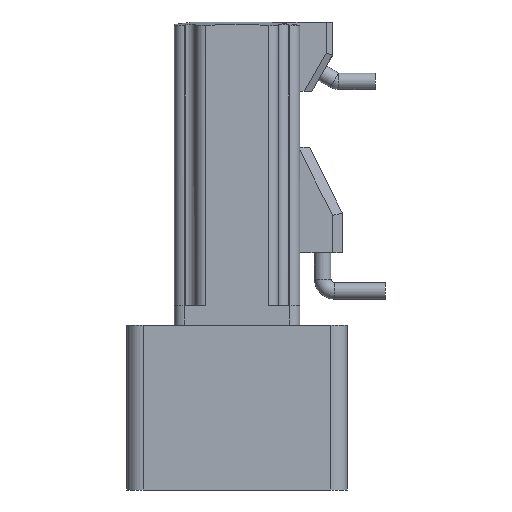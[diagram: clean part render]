
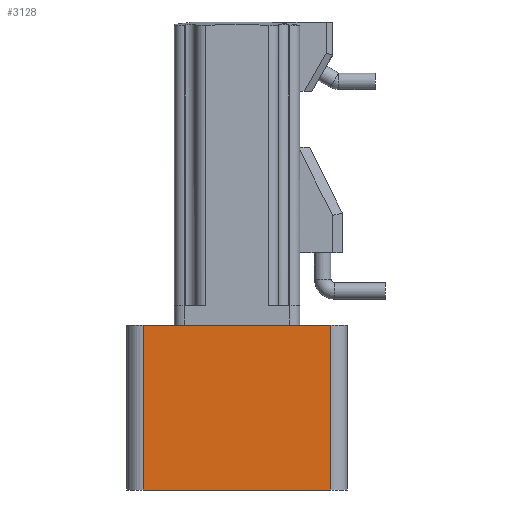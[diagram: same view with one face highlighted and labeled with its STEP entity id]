
A CAD part, front view. The second image highlights one B-rep face of the part: STEP entity #3128.
In plain terms, the highlighted planar face has unit normal (0, -1, 0).
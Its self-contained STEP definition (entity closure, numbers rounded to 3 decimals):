
#29 = ORIENTED_EDGE ( 'NONE', *, *, #193, .F. ) ;
#155 = EDGE_CURVE ( 'NONE', #3664, #2712, #197, .T. ) ;
#169 = EDGE_CURVE ( 'NONE', #2712, #3901, #707, .T. ) ;
#182 = EDGE_CURVE ( 'NONE', #2252, #3901, #5516, .T. ) ;
#193 = EDGE_CURVE ( 'NONE', #3664, #2252, #788, .T. ) ;
#197 = LINE ( 'NONE', #2087, #1685 ) ;
#294 = ORIENTED_EDGE ( 'NONE', *, *, #182, .F. ) ;
#707 = LINE ( 'NONE', #1600, #3469 ) ;
#788 = LINE ( 'NONE', #1248, #3555 ) ;
#994 = ORIENTED_EDGE ( 'NONE', *, *, #155, .T. ) ;
#1000 = CARTESIAN_POINT ( 'NONE',  ( 28.5, -30., 0. ) ) ;
#1064 = DIRECTION ( 'NONE',  ( 1., 0., 0. ) ) ;
#1070 = VECTOR ( 'NONE', #1496, 1000. ) ;
#1212 = DIRECTION ( 'NONE',  ( -1., 0., 0. ) ) ;
#1248 = CARTESIAN_POINT ( 'NONE',  ( 28.5, -30., 50. ) ) ;
#1334 = CARTESIAN_POINT ( 'NONE',  ( 28.5, -30., 50. ) ) ;
#1335 = DIRECTION ( 'NONE',  ( 0., 1., 0. ) ) ;
#1427 = PLANE ( 'NONE',  #2216 ) ;
#1496 = DIRECTION ( 'NONE',  ( 0., 0., -1. ) ) ;
#1600 = CARTESIAN_POINT ( 'NONE',  ( 28.5, -30., 0. ) ) ;
#1685 = VECTOR ( 'NONE', #2084, 1000. ) ;
#1687 = DIRECTION ( 'NONE',  ( 1., 0., 0. ) ) ;
#2084 = DIRECTION ( 'NONE',  ( 0., 0., -1. ) ) ;
#2087 = CARTESIAN_POINT ( 'NONE',  ( -28.5, -30., 50. ) ) ;
#2159 = ORIENTED_EDGE ( 'NONE', *, *, #169, .T. ) ;
#2216 = AXIS2_PLACEMENT_3D ( 'NONE', #2302, #1335, #1212 ) ;
#2252 = VERTEX_POINT ( 'NONE', #4683 ) ;
#2302 = CARTESIAN_POINT ( 'NONE',  ( 28.5, -30., 50. ) ) ;
#2305 = EDGE_LOOP ( 'NONE', ( #2159, #294, #29, #994 ) ) ;
#2488 = CARTESIAN_POINT ( 'NONE',  ( -28.5, -30., 0. ) ) ;
#2712 = VERTEX_POINT ( 'NONE', #2488 ) ;
#3128 = ADVANCED_FACE ( 'NONE', ( #5369 ), #1427, .F. ) ;
#3165 = CARTESIAN_POINT ( 'NONE',  ( -28.5, -30., 50. ) ) ;
#3469 = VECTOR ( 'NONE', #1687, 1000. ) ;
#3555 = VECTOR ( 'NONE', #1064, 1000. ) ;
#3664 = VERTEX_POINT ( 'NONE', #3165 ) ;
#3901 = VERTEX_POINT ( 'NONE', #1000 ) ;
#4683 = CARTESIAN_POINT ( 'NONE',  ( 28.5, -30., 50. ) ) ;
#5369 = FACE_OUTER_BOUND ( 'NONE', #2305, .T. ) ;
#5516 = LINE ( 'NONE', #1334, #1070 ) ;
